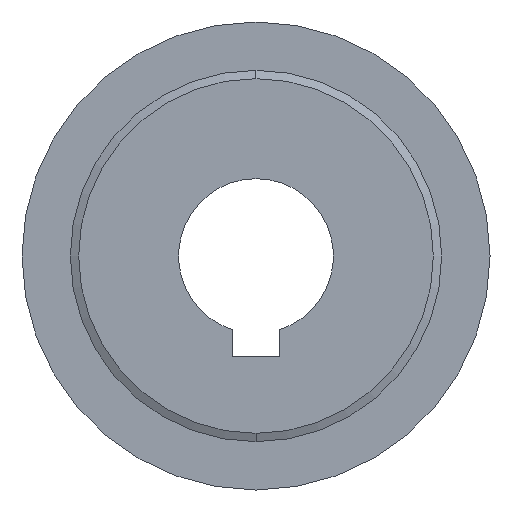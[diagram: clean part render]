
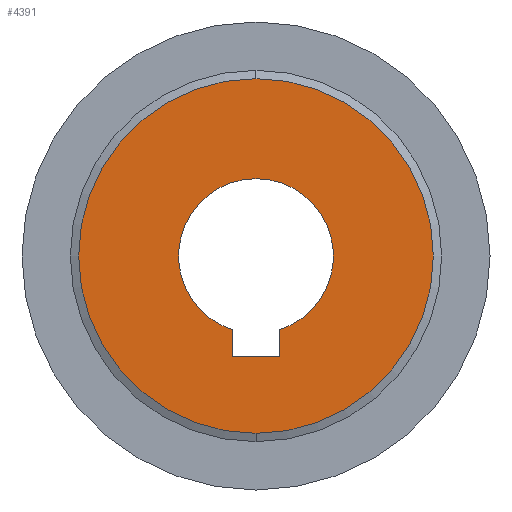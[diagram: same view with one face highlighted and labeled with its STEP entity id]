
A CAD part, left-side view. The second image highlights one B-rep face of the part: STEP entity #4391.
In plain terms, the highlighted planar face has unit normal (-1, 0, 0).
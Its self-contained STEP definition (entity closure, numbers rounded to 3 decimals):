
#160 = AXIS2_PLACEMENT_3D ( 'NONE', #7365, #624, #11173 ) ;
#210 = CARTESIAN_POINT ( 'NONE',  ( -12.75, -3., -13.039 ) ) ;
#335 = CARTESIAN_POINT ( 'NONE',  ( -12.75, 3., -13.039 ) ) ;
#530 = AXIS2_PLACEMENT_3D ( 'NONE', #8338, #5741, #2893 ) ;
#624 = DIRECTION ( 'NONE',  ( -1., 0., 0. ) ) ;
#661 = EDGE_CURVE ( 'NONE', #16068, #6004, #16800, .T. ) ;
#816 = CARTESIAN_POINT ( 'NONE',  ( -12.75, 3., -9.539 ) ) ;
#1096 = FACE_OUTER_BOUND ( 'NONE', #14971, .T. ) ;
#1099 = ORIENTED_EDGE ( 'NONE', *, *, #1795, .F. ) ;
#1601 = DIRECTION ( 'NONE',  ( 0., 0., 1. ) ) ;
#1795 = EDGE_CURVE ( 'NONE', #14712, #7610, #2910, .T. ) ;
#2037 = CARTESIAN_POINT ( 'NONE',  ( -12.75, 0., -22.928 ) ) ;
#2893 = DIRECTION ( 'NONE',  ( 0., 0., 1. ) ) ;
#2910 = CIRCLE ( 'NONE', #5123, 10. ) ;
#2929 = AXIS2_PLACEMENT_3D ( 'NONE', #8176, #6873, #1601 ) ;
#3789 = DIRECTION ( 'NONE',  ( 0., 0., 1. ) ) ;
#3839 = EDGE_CURVE ( 'NONE', #16465, #13152, #8004, .T. ) ;
#3899 = CARTESIAN_POINT ( 'NONE',  ( -12.75, 3., -13.039 ) ) ;
#4391 = ADVANCED_FACE ( 'NONE', ( #6375, #1096 ), #14315, .T. ) ;
#4412 = EDGE_LOOP ( 'NONE', ( #11034, #5340, #1099, #14073, #15723 ) ) ;
#4804 = DIRECTION ( 'NONE',  ( 0., 0., -1. ) ) ;
#5123 = AXIS2_PLACEMENT_3D ( 'NONE', #8371, #10881, #10966 ) ;
#5272 = VECTOR ( 'NONE', #4804, 1000. ) ;
#5340 = ORIENTED_EDGE ( 'NONE', *, *, #9862, .F. ) ;
#5741 = DIRECTION ( 'NONE',  ( -1., 0., 0. ) ) ;
#5963 = CARTESIAN_POINT ( 'NONE',  ( -12.75, 0., 22.928 ) ) ;
#6004 = VERTEX_POINT ( 'NONE', #13669 ) ;
#6375 = FACE_BOUND ( 'NONE', #4412, .T. ) ;
#6873 = DIRECTION ( 'NONE',  ( -1., 0., 0. ) ) ;
#6988 = VERTEX_POINT ( 'NONE', #335 ) ;
#7192 = CARTESIAN_POINT ( 'NONE',  ( -12.75, 0., 10. ) ) ;
#7365 = CARTESIAN_POINT ( 'NONE',  ( -12.75, 0., 0. ) ) ;
#7610 = VERTEX_POINT ( 'NONE', #9873 ) ;
#8004 = CIRCLE ( 'NONE', #530, 22.928 ) ;
#8176 = CARTESIAN_POINT ( 'NONE',  ( -12.75, 0., 0. ) ) ;
#8338 = CARTESIAN_POINT ( 'NONE',  ( -12.75, 0., 0. ) ) ;
#8371 = CARTESIAN_POINT ( 'NONE',  ( -12.75, 0., 0. ) ) ;
#8796 = AXIS2_PLACEMENT_3D ( 'NONE', #11640, #15604, #3789 ) ;
#8988 = CIRCLE ( 'NONE', #160, 10. ) ;
#9234 = VECTOR ( 'NONE', #10417, 1000. ) ;
#9862 = EDGE_CURVE ( 'NONE', #7610, #6988, #11275, .T. ) ;
#9873 = CARTESIAN_POINT ( 'NONE',  ( -12.75, 3., -9.539 ) ) ;
#10417 = DIRECTION ( 'NONE',  ( 0., 0., 1. ) ) ;
#10881 = DIRECTION ( 'NONE',  ( -1., 0., 0. ) ) ;
#10966 = DIRECTION ( 'NONE',  ( 0., 0., 1. ) ) ;
#10985 = VECTOR ( 'NONE', #14418, 1000. ) ;
#11034 = ORIENTED_EDGE ( 'NONE', *, *, #15679, .T. ) ;
#11173 = DIRECTION ( 'NONE',  ( 0., 0., 1. ) ) ;
#11275 = LINE ( 'NONE', #816, #5272 ) ;
#11460 = CIRCLE ( 'NONE', #2929, 22.928 ) ;
#11640 = CARTESIAN_POINT ( 'NONE',  ( -12.75, 0., 0. ) ) ;
#11735 = LINE ( 'NONE', #3899, #10985 ) ;
#12726 = EDGE_CURVE ( 'NONE', #13152, #16465, #11460, .T. ) ;
#12804 = EDGE_CURVE ( 'NONE', #6004, #14712, #8988, .T. ) ;
#13152 = VERTEX_POINT ( 'NONE', #5963 ) ;
#13669 = CARTESIAN_POINT ( 'NONE',  ( -12.75, -3., -9.539 ) ) ;
#14073 = ORIENTED_EDGE ( 'NONE', *, *, #12804, .F. ) ;
#14290 = CARTESIAN_POINT ( 'NONE',  ( -12.75, -3., -12.009 ) ) ;
#14315 = PLANE ( 'NONE',  #8796 ) ;
#14418 = DIRECTION ( 'NONE',  ( 0., 1., 0. ) ) ;
#14712 = VERTEX_POINT ( 'NONE', #7192 ) ;
#14971 = EDGE_LOOP ( 'NONE', ( #16883, #16027 ) ) ;
#15604 = DIRECTION ( 'NONE',  ( -1., 0., 0. ) ) ;
#15679 = EDGE_CURVE ( 'NONE', #16068, #6988, #11735, .T. ) ;
#15723 = ORIENTED_EDGE ( 'NONE', *, *, #661, .F. ) ;
#16027 = ORIENTED_EDGE ( 'NONE', *, *, #12726, .T. ) ;
#16068 = VERTEX_POINT ( 'NONE', #210 ) ;
#16465 = VERTEX_POINT ( 'NONE', #2037 ) ;
#16800 = LINE ( 'NONE', #14290, #9234 ) ;
#16883 = ORIENTED_EDGE ( 'NONE', *, *, #3839, .T. ) ;
